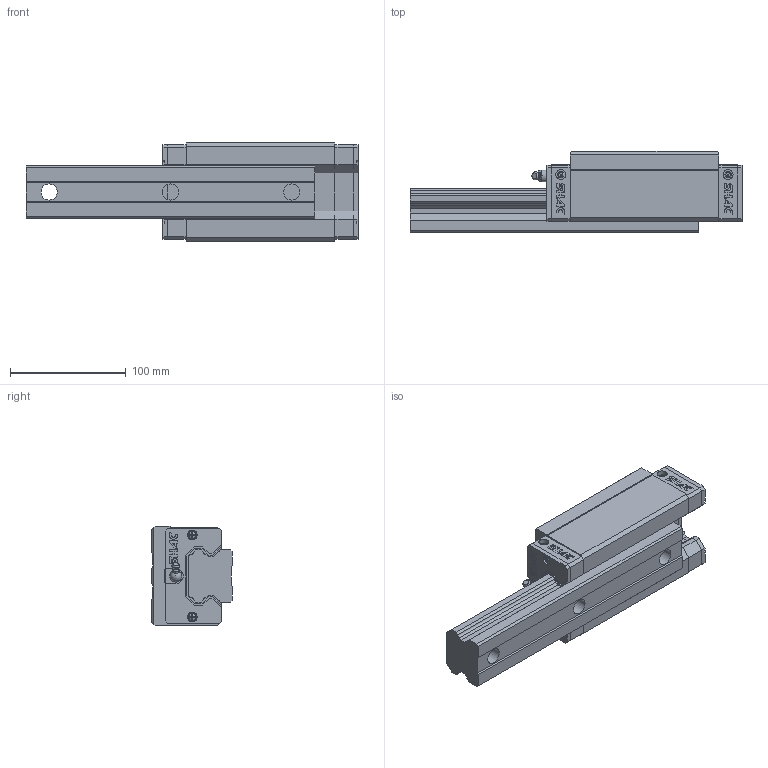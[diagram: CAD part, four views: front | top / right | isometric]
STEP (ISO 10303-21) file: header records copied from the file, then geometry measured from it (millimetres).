
FILE_DESCRIPTION( ( 'STEP AP214' ), '1' );
FILE_NAME( 'F:/品牌/SHAC 台湾鼎翰传动科技有限公司/3D滑块/GHH45HA1R250Z0C-20_20_1_1_.stp', '2025-04-21T22:44:58', ( 'License CC BY-ND 4.0' ), ( 'CADENAS' ), ' ', 'PARTsolutions', ' ' );
FILE_SCHEMA( ( 'AUTOMOTIVE_DESIGN { 1 0 10303 214 1 1 1 1 }' ) );
Length unit declared in the file: millimetre
Products named in the file (8): GHH45HA1R250Z0C-20/20(1_1); _GHR45R250C+RC-20/20(1)_RAIL; _GHH45HA_SLIDER; _GHH45HA_C; _GHH45HA_P; _GH45_SCREW; _GH45_BOLT; _GH45-_G
Assembly tree (12 placements, depth 2):
  GHH45HA1R250Z0C-20/20(1_1)
    _GHR45R250C+RC-20/20(1)_RAIL
    _GHH45HA_SLIDER
    _GHH45HA_C  x2
    _GHH45HA_P  x2
    _GH45_SCREW  x4
    _GH45_BOLT
    _GH45-_G
Bounding box: 287.3 x 70 x 86 mm (x, y, z)
Volume: 982973.5 mm3; surface area: 143394.4 mm2
Topology: 12 solids, 12 shells, 777 faces, 2063 edges, 1361 vertices
Faces by surface type: plane 630, cylinder 106, cone 26, torus 9, sphere 5, bspline 1
Full cylindrical faces by diameter (mm): 0.818 x4, 4.3 x4, 4.5 x1, 6.67 x4, 7.5 x2, 8.34 x4, 8.376 x4, 8.5 x4, 10 x2, 10.3 x2, 14 x3, 20 x3
Entity records: 18204 total; most frequent: CARTESIAN_POINT 2682, ORIENTED_EDGE 2378, DIRECTION 2311, EDGE_CURVE 1189, LINE 975, VECTOR 975, VERTEX_POINT 811, AXIS2_PLACEMENT_3D 668
